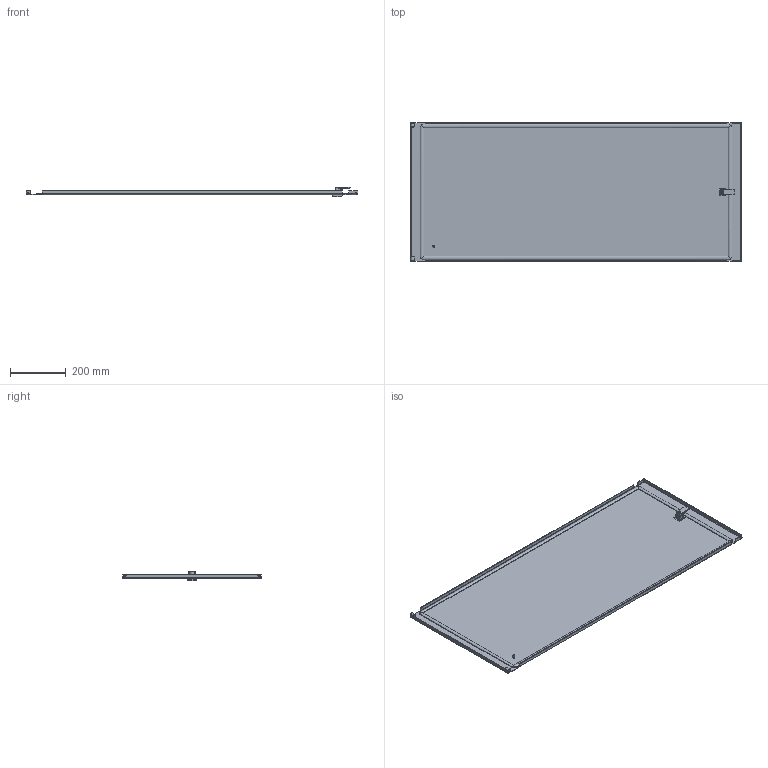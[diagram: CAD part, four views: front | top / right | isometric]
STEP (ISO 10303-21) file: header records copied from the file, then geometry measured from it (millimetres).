
FILE_DESCRIPTION(('STEP AP203'), '1');
FILE_NAME('Äâåðü ñåêöèîííàÿ 500õ1200 ìì OptiBox M 419972 ÊÝÀÇ', '', ('UNSPECIFIED'), ('UNSPECIFIED'), 'C3D Converter', 'C3D Toolkit', '');
FILE_SCHEMA(('CONFIG_CONTROL_DESIGN'));
Length unit declared in the file: millimetre
Bounding box: 1186.4 x 497 x 32.2 mm (x, y, z)
Volume: 1410413.5 mm3; surface area: 1360637.8 mm2
Topology: 6 solids, 6 shells, 355 faces, 928 edges, 588 vertices
Faces by surface type: plane 252, cylinder 92, bspline 8, cone 2, torus 1
Full cylindrical faces by diameter (mm): 0.75 x1, 1 x1, 3 x1, 5 x2, 6 x1, 7.5 x1, 9.3 x1, 10 x1, 20 x1
Entity records: 11864 total; most frequent: CARTESIAN_POINT 3095, ORIENTED_EDGE 1830, DIRECTION 1731, EDGE_CURVE 915, LINE 705, VECTOR 705, VERTEX_POINT 588, AXIS2_PLACEMENT_3D 513
